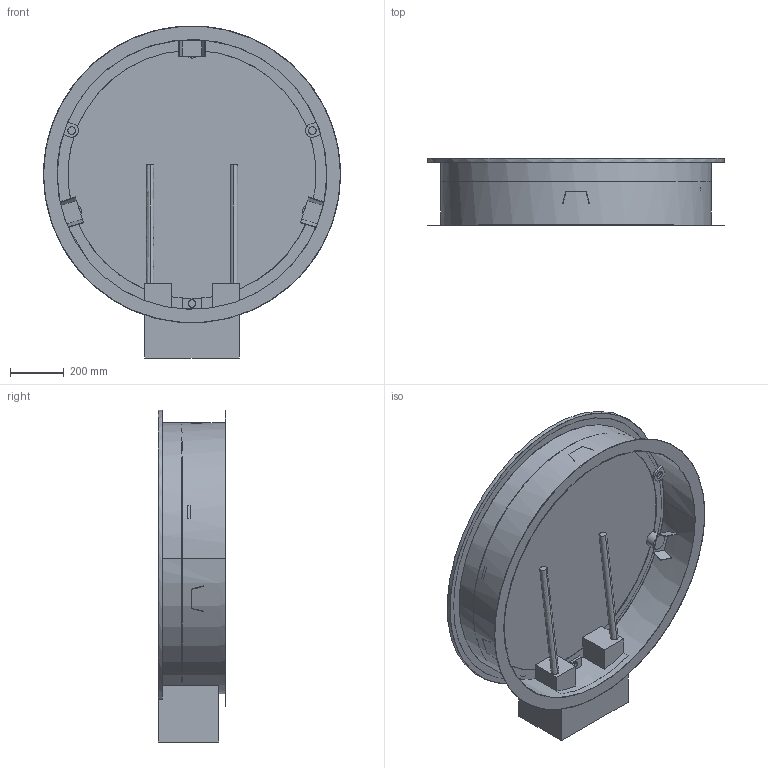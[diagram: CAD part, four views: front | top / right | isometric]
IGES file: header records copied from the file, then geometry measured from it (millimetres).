
Start section:  PTC IGES file: 52342897.igs
Global section: file name: 52342897.igs; native system: Creo Parametric by PTC Inc.; preprocessor: 2022162; author: hrl; organization: Unknown; date: 20250204.075858; units: millimetre
Bounding box: 1100 x 250 x 1230.2 mm (x, y, z)
Surface area: 4652503.1 mm2 (no closed solid volume)
Topology: 0 solids, 0 shells, 128 faces, 624 edges, 624 vertices
Faces by surface type: bspline 79, revolution 49
